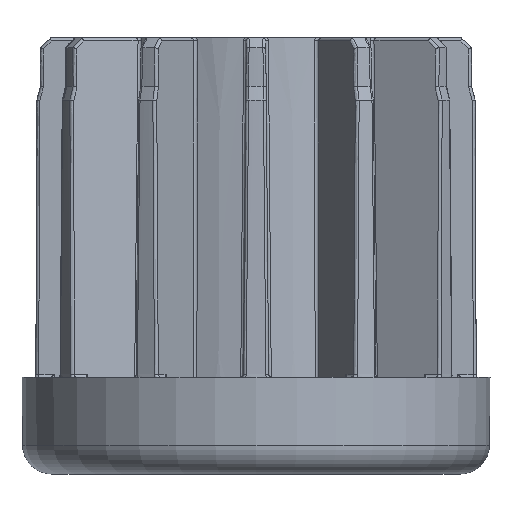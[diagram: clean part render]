
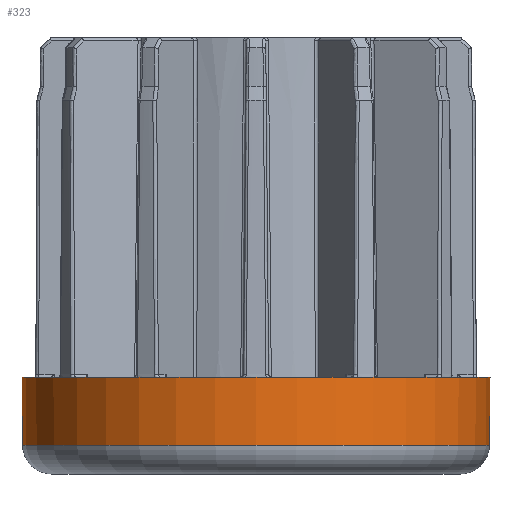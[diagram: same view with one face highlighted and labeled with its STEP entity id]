
A CAD part, front view. The second image highlights one B-rep face of the part: STEP entity #323.
In plain terms, the highlighted conical face has half-angle 0.5 degrees and reference radius 24.15 mm.
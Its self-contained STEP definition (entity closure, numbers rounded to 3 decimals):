
#267=CARTESIAN_POINT('Line Origine',(-24.106,0.,5.)) ;
#271=CARTESIAN_POINT('Vertex',(-24.15,0.,10.)) ;
#273=CARTESIAN_POINT('Vertex',(-24.089,0.,2.974)) ;
#280=CARTESIAN_POINT('Vertex',(24.15,0.,10.)) ;
#283=CARTESIAN_POINT('Line Origine',(24.106,0.,5.)) ;
#287=CARTESIAN_POINT('Vertex',(24.089,0.,2.974)) ;
#302=CARTESIAN_POINT('Axis2P3D Location',(0.,0.,10.)) ;
#307=CARTESIAN_POINT('Axis2P3D Location',(0.,0.,10.)) ;
#312=CARTESIAN_POINT('Axis2P3D Location',(0.,0.,2.974)) ;
#268=DIRECTION('Vector Direction',(-0.009,0.,1.)) ;
#284=DIRECTION('Vector Direction',(0.009,0.,1.)) ;
#303=DIRECTION('Axis2P3D Direction',(0.,0.,1.)) ;
#304=DIRECTION('Axis2P3D XDirection',(-1.,0.,0.)) ;
#308=DIRECTION('Axis2P3D Direction',(0.,0.,1.)) ;
#313=DIRECTION('Axis2P3D Direction',(0.,0.,1.)) ;
#305=AXIS2_PLACEMENT_3D('Cone Axis2P3D',#302,#303,#304) ;
#309=AXIS2_PLACEMENT_3D('Circle Axis2P3D',#307,#308,$) ;
#314=AXIS2_PLACEMENT_3D('Circle Axis2P3D',#312,#313,$) ;
#318=ORIENTED_EDGE('',*,*,#289,.F.) ;
#319=ORIENTED_EDGE('',*,*,#311,.F.) ;
#320=ORIENTED_EDGE('',*,*,#275,.T.) ;
#321=ORIENTED_EDGE('',*,*,#316,.F.) ;
#269=VECTOR('Line Direction',#268,1.) ;
#285=VECTOR('Line Direction',#284,1.) ;
#323=ADVANCED_FACE('PartBody',(#322),#306,.T.) ;
#310=CIRCLE('generated circle',#309,24.15) ;
#315=CIRCLE('generated circle',#314,24.089) ;
#306=CONICAL_SURFACE('Cone',#305,24.15,0.009) ;
#275=EDGE_CURVE('',#272,#274,#270,.F.) ;
#289=EDGE_CURVE('',#281,#288,#286,.F.) ;
#311=EDGE_CURVE('',#272,#281,#310,.T.) ;
#316=EDGE_CURVE('',#288,#274,#315,.F.) ;
#317=EDGE_LOOP('',(#318,#319,#320,#321)) ;
#322=FACE_OUTER_BOUND('',#317,.T.) ;
#270=LINE('Line',#267,#269) ;
#286=LINE('Line',#283,#285) ;
#272=VERTEX_POINT('',#271) ;
#274=VERTEX_POINT('',#273) ;
#281=VERTEX_POINT('',#280) ;
#288=VERTEX_POINT('',#287) ;
